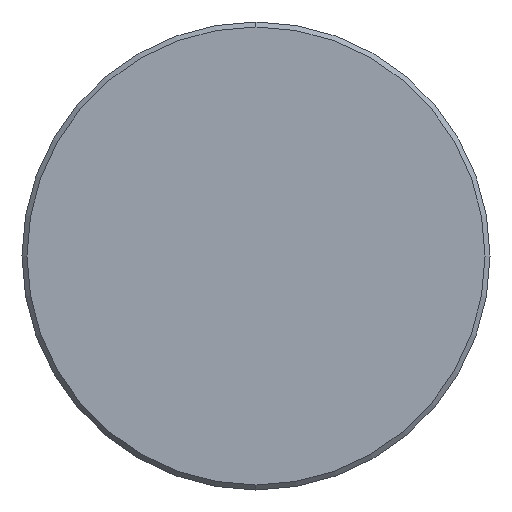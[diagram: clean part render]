
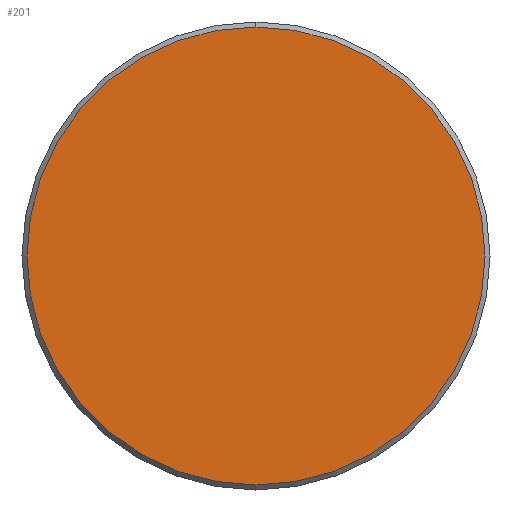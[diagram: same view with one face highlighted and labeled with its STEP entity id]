
A CAD part, left-side view. The second image highlights one B-rep face of the part: STEP entity #201.
In plain terms, the highlighted planar face has unit normal (-1, 0, 0).
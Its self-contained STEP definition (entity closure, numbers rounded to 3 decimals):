
#93 = CIRCLE ( 'NONE', #198, 23. ) ;
#131 = CARTESIAN_POINT ( 'NONE',  ( 0., 0., 0. ) ) ;
#161 = EDGE_CURVE ( 'NONE', #300, #682, #467, .T. ) ;
#198 = AXIS2_PLACEMENT_3D ( 'NONE', #1327, #1093, #1210 ) ;
#201 = ADVANCED_FACE ( 'NONE', ( #1160 ), #1173, .F. ) ;
#238 = DIRECTION ( 'NONE',  ( 1., 0., 0. ) ) ;
#247 = CARTESIAN_POINT ( 'NONE',  ( 0., 0., 0. ) ) ;
#300 = VERTEX_POINT ( 'NONE', #1312 ) ;
#428 = AXIS2_PLACEMENT_3D ( 'NONE', #131, #1181, #553 ) ;
#467 = CIRCLE ( 'NONE', #428, 23. ) ;
#553 = DIRECTION ( 'NONE',  ( 0., 0., 1. ) ) ;
#667 = CARTESIAN_POINT ( 'NONE',  ( 0., 0., 23. ) ) ;
#682 = VERTEX_POINT ( 'NONE', #667 ) ;
#746 = DIRECTION ( 'NONE',  ( 0., 0., -1. ) ) ;
#924 = ORIENTED_EDGE ( 'NONE', *, *, #1147, .T. ) ;
#1008 = AXIS2_PLACEMENT_3D ( 'NONE', #247, #238, #746 ) ;
#1093 = DIRECTION ( 'NONE',  ( -1., 0., 0. ) ) ;
#1130 = EDGE_LOOP ( 'NONE', ( #1307, #924 ) ) ;
#1147 = EDGE_CURVE ( 'NONE', #682, #300, #93, .T. ) ;
#1160 = FACE_OUTER_BOUND ( 'NONE', #1130, .T. ) ;
#1173 = PLANE ( 'NONE',  #1008 ) ;
#1181 = DIRECTION ( 'NONE',  ( -1., 0., 0. ) ) ;
#1210 = DIRECTION ( 'NONE',  ( 0., 0., 1. ) ) ;
#1307 = ORIENTED_EDGE ( 'NONE', *, *, #161, .T. ) ;
#1312 = CARTESIAN_POINT ( 'NONE',  ( 0., 0., -23. ) ) ;
#1327 = CARTESIAN_POINT ( 'NONE',  ( 0., 0., 0. ) ) ;
